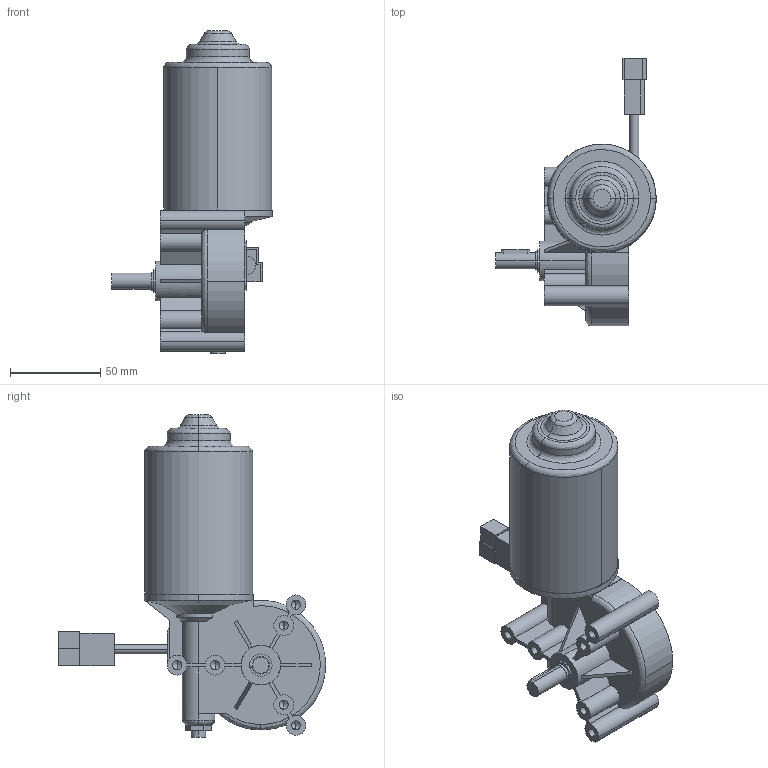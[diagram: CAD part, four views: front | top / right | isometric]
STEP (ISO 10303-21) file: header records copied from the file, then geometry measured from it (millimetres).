
FILE_DESCRIPTION (( 'STEP AP214' ), '1' );
FILE_NAME ('111.STEP', '2015-08-04T07:41:34', ( '' ), ( '' ), 'SwSTEP 2.0', 'SolidWorks 2014', '' );
FILE_SCHEMA (( 'AUTOMOTIVE_DESIGN' ));
Length unit declared in the file: millimetre
Products named in the file (1): 111
Bounding box: 89.25 x 148.5 x 179 mm (x, y, z)
Volume: 416952.3 mm3; surface area: 55566.8 mm2
Topology: 7 solids, 7 shells, 218 faces, 550 edges, 350 vertices
Faces by surface type: plane 120, cylinder 63, cone 19, bspline 12, torus 4
Entity records: 7410 total; most frequent: CARTESIAN_POINT 1537, DIRECTION 1079, ORIENTED_EDGE 1076, EDGE_CURVE 538, AXIS2_PLACEMENT_3D 372, VERTEX_POINT 350, LINE 335, VECTOR 335
